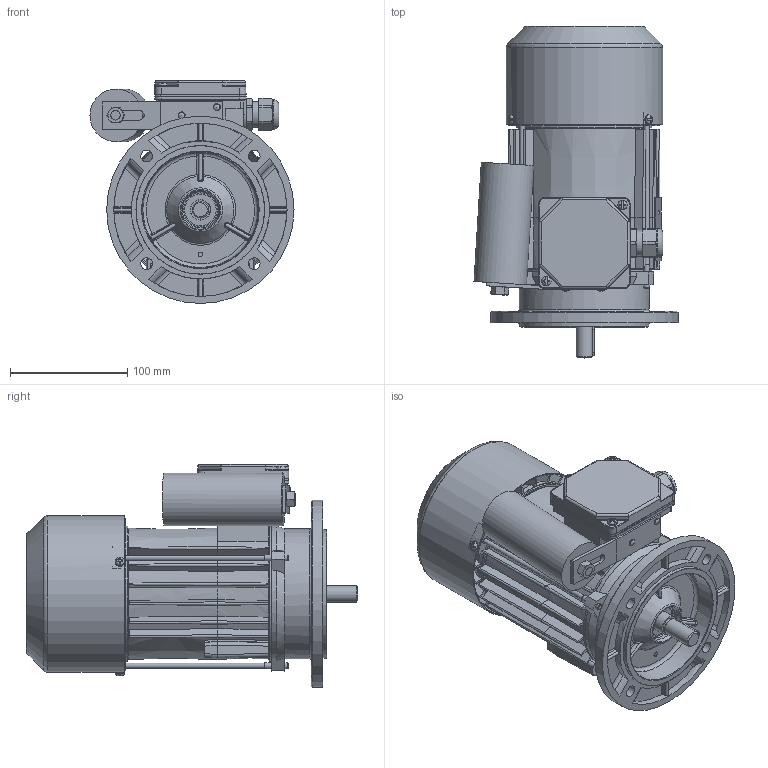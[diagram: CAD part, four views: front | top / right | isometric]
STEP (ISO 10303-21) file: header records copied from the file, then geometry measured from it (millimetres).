
FILE_DESCRIPTION(/* description */ ('Unknown'),/* implementation_level */ '2;1');
FILE_NAME(/* name */ '3SSIEK71-4B',/* time_stamp */ '2024-06-19T07:31:44+02:00',/* author */ ('Unknown'),/* organization */ ('Unknown'),/* preprocessor_version */ 'ST-DEVELOPER v16.7',/* originating_system */ 'Solid Edge',/* authorisation */ 'Unknown');
FILE_SCHEMA (('AUTOMOTIVE_DESIGN {1 0 10303 214 3 1 1}'));
Products named in the file (1): Czêœæ2
Bounding box: 174.3 x 283.48 x 190.5 mm (x, y, z)
Volume: 913304.9 mm3; surface area: 460659.5 mm2
Topology: 2 solids, 2 shells, 2442 faces, 6590 edges, 4180 vertices
Faces by surface type: plane 1004, cylinder 690, bspline 375, torus 183, cone 164, sphere 26
Full cylindrical faces by diameter (mm): 2 x2, 2.4 x2, 3 x1, 3.7 x4, 3.8 x4, 4 x5, 4.3 x2, 4.4 x3, 4.5 x2, 4.8 x2, 5 x8, 5.1 x3, 5.5 x3, 6 x2, 6.5 x1, 7 x1, 8 x7, 10 x4, 13.599 x1, 13.999 x1, 15.898 x1, 16.098 x1, 16.498 x1, 16.998 x2, 17.4 x2, 21.998 x2, 22.3 x1, 22.498 x1, 22.648 x1, 22.998 x1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
Entity records: 100938 total; most frequent: CARTESIAN_POINT 26885, ORIENTED_EDGE 12408, DIRECTION 10967, EDGE_CURVE 6204, AXIS2_PLACEMENT_3D 4180, VERTEX_POINT 4045, EDGE_LOOP 2887, FACE_BOUND 2887
